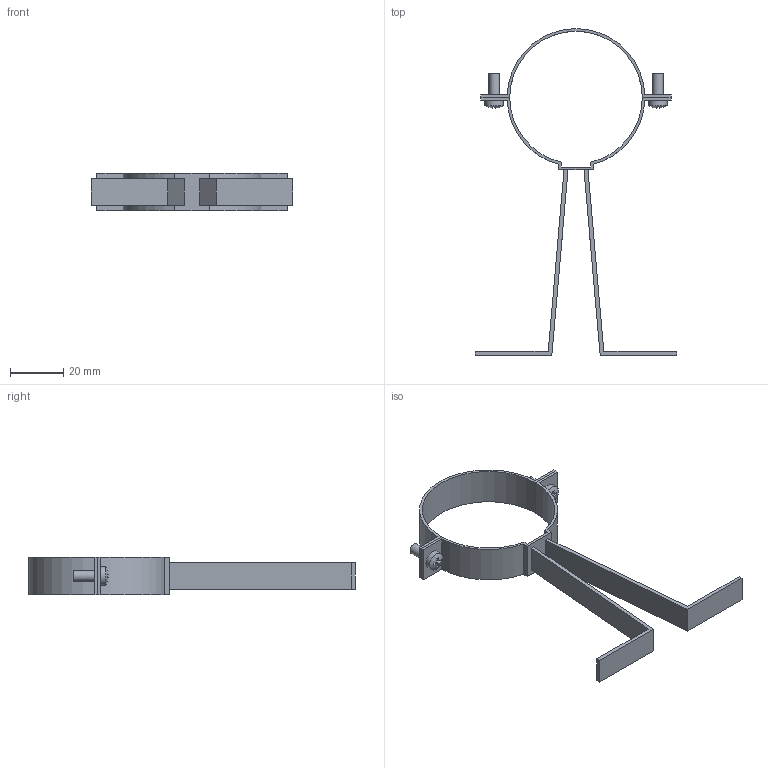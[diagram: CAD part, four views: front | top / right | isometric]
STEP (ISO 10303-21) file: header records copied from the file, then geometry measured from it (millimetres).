
FILE_DESCRIPTION( ( 'STEP AP214' ), '1' );
FILE_NAME( 'C:/Users/ilukic/Documents/ex/gebaudeentwasserung/pe/pipe bracket w_support/361856.stp', '2020-03-26T18:42:26', ( '' ), ( '' ), ' ', 'PARTsolutions', ' ' );
FILE_SCHEMA( ( 'AUTOMOTIVE_DESIGN { 1 0 10303 214 1 1 1 1 }' ) );
Length unit declared in the file: millimetre
Products named in the file (1): _361856
Bounding box: 76 x 123.23 x 14 mm (x, y, z)
Volume: 6153.2 mm3; surface area: 10939.3 mm2
Topology: 1 solids, 1 shells, 78 faces, 208 edges, 140 vertices
Faces by surface type: plane 64, cylinder 12, bspline 2
Full cylindrical faces by diameter (mm): 4 x4, 7 x2
Entity records: 3058 total; most frequent: CARTESIAN_POINT 577, ORIENTED_EDGE 384, DIRECTION 346, EDGE_CURVE 192, LINE 144, VECTOR 144, VERTEX_POINT 132, AXIS2_PLACEMENT_3D 101
